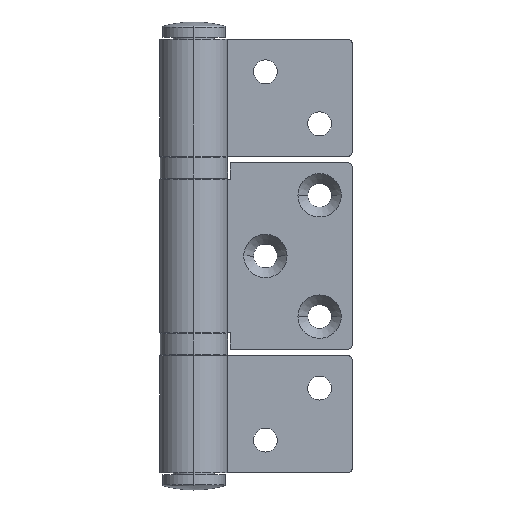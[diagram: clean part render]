
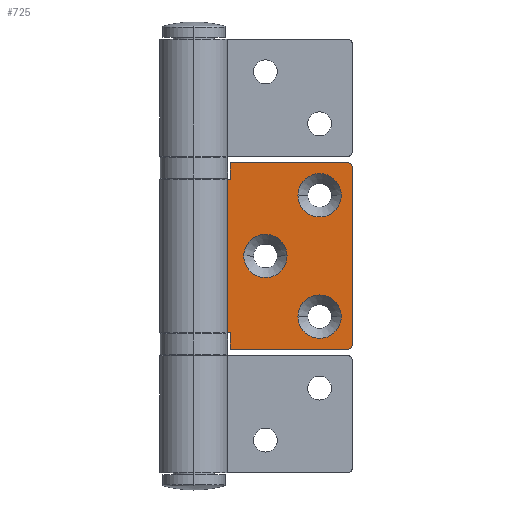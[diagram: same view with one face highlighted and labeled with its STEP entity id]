
A CAD part, top view. The second image highlights one B-rep face of the part: STEP entity #725.
In plain terms, the highlighted planar face has unit normal (0, 0, 1) as drawn and (1, 0, 0) by its records, which use the part's own axes.
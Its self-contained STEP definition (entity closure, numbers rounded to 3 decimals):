
#41 = EDGE_CURVE ( 'NONE', #2665, #2125, #837, .T. ) ;
#47 = VECTOR ( 'NONE', #2526, 1000. ) ;
#65 = VERTEX_POINT ( 'NONE', #1323 ) ;
#74 = PLANE ( 'NONE',  #729 ) ;
#83 = AXIS2_PLACEMENT_3D ( 'NONE', #2411, #1878, #2136 ) ;
#114 = DIRECTION ( 'NONE',  ( 0., -1., 0. ) ) ;
#226 = AXIS2_PLACEMENT_3D ( 'NONE', #2749, #247, #3261 ) ;
#247 = DIRECTION ( 'NONE',  ( -1., 0., 0. ) ) ;
#250 = VERTEX_POINT ( 'NONE', #2392 ) ;
#272 = CIRCLE ( 'NONE', #2102, 1. ) ;
#308 = EDGE_LOOP ( 'NONE', ( #2403, #2357 ) ) ;
#348 = CARTESIAN_POINT ( 'NONE',  ( 1.5, 7.705, 39.2 ) ) ;
#370 = VERTEX_POINT ( 'NONE', #2284 ) ;
#453 = CARTESIAN_POINT ( 'NONE',  ( 1.5, 8.4, 39.2 ) ) ;
#510 = ORIENTED_EDGE ( 'NONE', *, *, #1750, .T. ) ;
#518 = ORIENTED_EDGE ( 'NONE', *, *, #2651, .T. ) ;
#570 = VECTOR ( 'NONE', #662, 1000. ) ;
#596 = CARTESIAN_POINT ( 'NONE',  ( 1.5, 35.5, 43. ) ) ;
#597 = CARTESIAN_POINT ( 'NONE',  ( 1.5, 34., 35.5 ) ) ;
#640 = VERTEX_POINT ( 'NONE', #1700 ) ;
#662 = DIRECTION ( 'NONE',  ( 0., -1., 0. ) ) ;
#689 = DIRECTION ( 'NONE',  ( 0., -1., 0. ) ) ;
#725 = ADVANCED_FACE ( 'NONE', ( #3112, #892, #1347, #2326 ), #74, .F. ) ;
#729 = AXIS2_PLACEMENT_3D ( 'NONE', #1626, #2627, #1858 ) ;
#736 = VERTEX_POINT ( 'NONE', #597 ) ;
#740 = CARTESIAN_POINT ( 'NONE',  ( 1.5, 7.705, 3.8 ) ) ;
#762 = ORIENTED_EDGE ( 'NONE', *, *, #2712, .T. ) ;
#787 = EDGE_CURVE ( 'NONE', #370, #2665, #2232, .T. ) ;
#795 = VERTEX_POINT ( 'NONE', #1433 ) ;
#837 = LINE ( 'NONE', #1361, #952 ) ;
#838 = CARTESIAN_POINT ( 'NONE',  ( 1.5, 8.4, 43. ) ) ;
#847 = LINE ( 'NONE', #1272, #2777 ) ;
#865 = DIRECTION ( 'NONE',  ( 0., 0., -1. ) ) ;
#868 = CIRCLE ( 'NONE', #226, 5. ) ;
#892 = FACE_BOUND ( 'NONE', #308, .T. ) ;
#915 = CIRCLE ( 'NONE', #2884, 5. ) ;
#943 = DIRECTION ( 'NONE',  ( 0., -1., 0. ) ) ;
#952 = VECTOR ( 'NONE', #2322, 1000. ) ;
#973 = LINE ( 'NONE', #1208, #1690 ) ;
#989 = CARTESIAN_POINT ( 'NONE',  ( 1.5, 35.5, 42. ) ) ;
#1027 = CARTESIAN_POINT ( 'NONE',  ( 1.5, 7.705, 43. ) ) ;
#1042 = DIRECTION ( 'NONE',  ( 0., 0., -1. ) ) ;
#1088 = EDGE_CURVE ( 'NONE', #1900, #250, #1437, .T. ) ;
#1136 = CARTESIAN_POINT ( 'NONE',  ( 1.5, 8.4, 3.8 ) ) ;
#1199 = EDGE_CURVE ( 'NONE', #736, #65, #915, .T. ) ;
#1208 = CARTESIAN_POINT ( 'NONE',  ( 1.5, 8.4, 43. ) ) ;
#1251 = VERTEX_POINT ( 'NONE', #1963 ) ;
#1266 = AXIS2_PLACEMENT_3D ( 'NONE', #2180, #2440, #943 ) ;
#1272 = CARTESIAN_POINT ( 'NONE',  ( 1.5, 7.705, 0. ) ) ;
#1307 = DIRECTION ( 'NONE',  ( -1., 0., 0. ) ) ;
#1323 = CARTESIAN_POINT ( 'NONE',  ( 1.5, 24., 35.5 ) ) ;
#1345 = AXIS2_PLACEMENT_3D ( 'NONE', #1923, #1637, #689 ) ;
#1347 = FACE_BOUND ( 'NONE', #3244, .T. ) ;
#1361 = CARTESIAN_POINT ( 'NONE',  ( 1.5, 7.705, 3.8 ) ) ;
#1433 = CARTESIAN_POINT ( 'NONE',  ( 1.5, 36.5, 1. ) ) ;
#1434 = DIRECTION ( 'NONE',  ( 0., -1., 0. ) ) ;
#1437 = CIRCLE ( 'NONE', #3172, 5. ) ;
#1450 = VERTEX_POINT ( 'NONE', #2826 ) ;
#1485 = AXIS2_PLACEMENT_3D ( 'NONE', #1986, #2504, #3246 ) ;
#1509 = CIRCLE ( 'NONE', #83, 5. ) ;
#1531 = CIRCLE ( 'NONE', #1485, 1. ) ;
#1626 = CARTESIAN_POINT ( 'NONE',  ( 1.5, 7.705, 43. ) ) ;
#1635 = CARTESIAN_POINT ( 'NONE',  ( 1.5, 8.4, 43. ) ) ;
#1637 = DIRECTION ( 'NONE',  ( -1., 0., 0. ) ) ;
#1662 = DIRECTION ( 'NONE',  ( 0., 0., -1. ) ) ;
#1690 = VECTOR ( 'NONE', #2251, 1000. ) ;
#1700 = CARTESIAN_POINT ( 'NONE',  ( 1.5, 8.4, 0. ) ) ;
#1713 = DIRECTION ( 'NONE',  ( 1., 0., 0. ) ) ;
#1717 = ORIENTED_EDGE ( 'NONE', *, *, #1748, .F. ) ;
#1737 = ORIENTED_EDGE ( 'NONE', *, *, #2732, .T. ) ;
#1747 = ORIENTED_EDGE ( 'NONE', *, *, #2253, .T. ) ;
#1748 = EDGE_CURVE ( 'NONE', #2875, #2165, #2065, .T. ) ;
#1750 = EDGE_CURVE ( 'NONE', #2125, #640, #2537, .T. ) ;
#1846 = ORIENTED_EDGE ( 'NONE', *, *, #787, .T. ) ;
#1848 = CIRCLE ( 'NONE', #1266, 5. ) ;
#1858 = DIRECTION ( 'NONE',  ( 0., -1., 0. ) ) ;
#1876 = CARTESIAN_POINT ( 'NONE',  ( 1.5, 36.5, 42. ) ) ;
#1878 = DIRECTION ( 'NONE',  ( -1., 0., 0. ) ) ;
#1900 = VERTEX_POINT ( 'NONE', #2999 ) ;
#1919 = EDGE_LOOP ( 'NONE', ( #2605, #3152 ) ) ;
#1920 = VECTOR ( 'NONE', #1662, 1000. ) ;
#1923 = CARTESIAN_POINT ( 'NONE',  ( 1.5, 29., 7.5 ) ) ;
#1930 = CIRCLE ( 'NONE', #1345, 5. ) ;
#1938 = ORIENTED_EDGE ( 'NONE', *, *, #2572, .T. ) ;
#1963 = CARTESIAN_POINT ( 'NONE',  ( 1.5, 35.5, 0. ) ) ;
#1986 = CARTESIAN_POINT ( 'NONE',  ( 1.5, 35.5, 1. ) ) ;
#2065 = LINE ( 'NONE', #1027, #47 ) ;
#2098 = CARTESIAN_POINT ( 'NONE',  ( 1.5, 21.5, 21.5 ) ) ;
#2102 = AXIS2_PLACEMENT_3D ( 'NONE', #989, #1713, #2216 ) ;
#2125 = VERTEX_POINT ( 'NONE', #1136 ) ;
#2136 = DIRECTION ( 'NONE',  ( 0., -1., 0. ) ) ;
#2138 = VERTEX_POINT ( 'NONE', #1876 ) ;
#2165 = VERTEX_POINT ( 'NONE', #596 ) ;
#2180 = CARTESIAN_POINT ( 'NONE',  ( 1.5, 16.5, 21.5 ) ) ;
#2188 = ORIENTED_EDGE ( 'NONE', *, *, #3175, .T. ) ;
#2216 = DIRECTION ( 'NONE',  ( 0., -1., 0. ) ) ;
#2232 = LINE ( 'NONE', #2699, #1920 ) ;
#2241 = EDGE_CURVE ( 'NONE', #65, #736, #1509, .T. ) ;
#2251 = DIRECTION ( 'NONE',  ( 0., 0., -1. ) ) ;
#2253 = EDGE_CURVE ( 'NONE', #2283, #370, #2586, .T. ) ;
#2273 = VERTEX_POINT ( 'NONE', #2098 ) ;
#2283 = VERTEX_POINT ( 'NONE', #453 ) ;
#2284 = CARTESIAN_POINT ( 'NONE',  ( 1.5, 7.705, 39.2 ) ) ;
#2295 = CARTESIAN_POINT ( 'NONE',  ( 1.5, 36.5, 43. ) ) ;
#2322 = DIRECTION ( 'NONE',  ( 0., 1., 0. ) ) ;
#2326 = FACE_OUTER_BOUND ( 'NONE', #2571, .T. ) ;
#2357 = ORIENTED_EDGE ( 'NONE', *, *, #2418, .T. ) ;
#2392 = CARTESIAN_POINT ( 'NONE',  ( 1.5, 24., 7.5 ) ) ;
#2403 = ORIENTED_EDGE ( 'NONE', *, *, #1088, .T. ) ;
#2411 = CARTESIAN_POINT ( 'NONE',  ( 1.5, 29., 35.5 ) ) ;
#2417 = ORIENTED_EDGE ( 'NONE', *, *, #2684, .T. ) ;
#2418 = EDGE_CURVE ( 'NONE', #250, #1900, #1930, .T. ) ;
#2440 = DIRECTION ( 'NONE',  ( -1., 0., 0. ) ) ;
#2501 = ORIENTED_EDGE ( 'NONE', *, *, #3220, .F. ) ;
#2504 = DIRECTION ( 'NONE',  ( 1., 0., 0. ) ) ;
#2526 = DIRECTION ( 'NONE',  ( 0., 1., 0. ) ) ;
#2537 = LINE ( 'NONE', #838, #3008 ) ;
#2553 = VECTOR ( 'NONE', #865, 1000. ) ;
#2571 = EDGE_LOOP ( 'NONE', ( #3186, #510, #2188, #762, #2501, #2417, #1717, #518, #1747, #1846 ) ) ;
#2572 = EDGE_CURVE ( 'NONE', #2273, #1450, #1848, .T. ) ;
#2586 = LINE ( 'NONE', #348, #570 ) ;
#2605 = ORIENTED_EDGE ( 'NONE', *, *, #1199, .T. ) ;
#2627 = DIRECTION ( 'NONE',  ( -1., 0., 0. ) ) ;
#2651 = EDGE_CURVE ( 'NONE', #2875, #2283, #973, .T. ) ;
#2665 = VERTEX_POINT ( 'NONE', #740 ) ;
#2684 = EDGE_CURVE ( 'NONE', #2138, #2165, #272, .T. ) ;
#2699 = CARTESIAN_POINT ( 'NONE',  ( 1.5, 7.705, 43. ) ) ;
#2712 = EDGE_CURVE ( 'NONE', #1251, #795, #1531, .T. ) ;
#2732 = EDGE_CURVE ( 'NONE', #1450, #2273, #868, .T. ) ;
#2749 = CARTESIAN_POINT ( 'NONE',  ( 1.5, 16.5, 21.5 ) ) ;
#2777 = VECTOR ( 'NONE', #3070, 1000. ) ;
#2812 = CARTESIAN_POINT ( 'NONE',  ( 1.5, 29., 7.5 ) ) ;
#2826 = CARTESIAN_POINT ( 'NONE',  ( 1.5, 11.5, 21.5 ) ) ;
#2875 = VERTEX_POINT ( 'NONE', #1635 ) ;
#2884 = AXIS2_PLACEMENT_3D ( 'NONE', #3179, #3146, #1434 ) ;
#2999 = CARTESIAN_POINT ( 'NONE',  ( 1.5, 34., 7.5 ) ) ;
#3008 = VECTOR ( 'NONE', #1042, 1000. ) ;
#3039 = LINE ( 'NONE', #2295, #2553 ) ;
#3070 = DIRECTION ( 'NONE',  ( 0., 1., 0. ) ) ;
#3112 = FACE_BOUND ( 'NONE', #1919, .T. ) ;
#3146 = DIRECTION ( 'NONE',  ( -1., 0., 0. ) ) ;
#3152 = ORIENTED_EDGE ( 'NONE', *, *, #2241, .T. ) ;
#3172 = AXIS2_PLACEMENT_3D ( 'NONE', #2812, #1307, #114 ) ;
#3175 = EDGE_CURVE ( 'NONE', #640, #1251, #847, .T. ) ;
#3179 = CARTESIAN_POINT ( 'NONE',  ( 1.5, 29., 35.5 ) ) ;
#3186 = ORIENTED_EDGE ( 'NONE', *, *, #41, .T. ) ;
#3220 = EDGE_CURVE ( 'NONE', #2138, #795, #3039, .T. ) ;
#3244 = EDGE_LOOP ( 'NONE', ( #1938, #1737 ) ) ;
#3246 = DIRECTION ( 'NONE',  ( 0., -1., 0. ) ) ;
#3261 = DIRECTION ( 'NONE',  ( 0., -1., 0. ) ) ;
